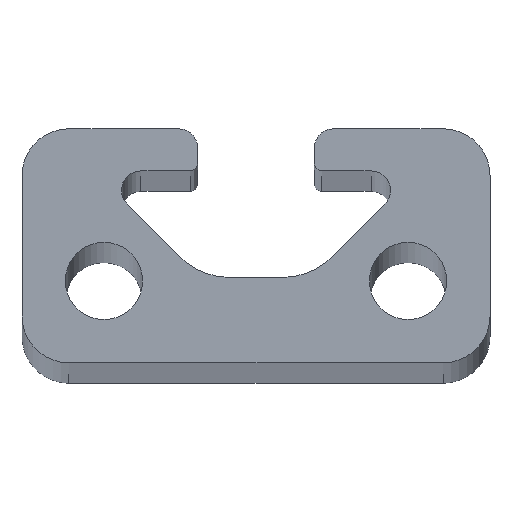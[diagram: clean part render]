
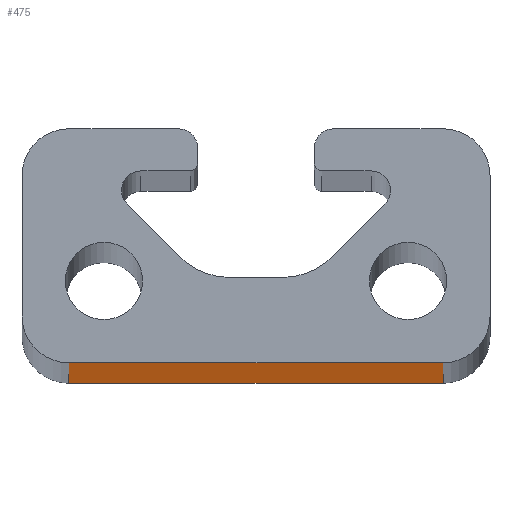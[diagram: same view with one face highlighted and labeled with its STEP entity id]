
A CAD part, top view. The second image highlights one B-rep face of the part: STEP entity #475.
In plain terms, the highlighted planar face has unit normal (0, -1, 0).
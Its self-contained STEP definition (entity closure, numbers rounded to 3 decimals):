
#84 = VERTEX_POINT ( 'NONE', #1036 ) ;
#102 = EDGE_CURVE ( 'NONE', #84, #931, #1083, .T. ) ;
#105 = DIRECTION ( 'NONE',  ( 0., 0., -1. ) ) ;
#111 = PLANE ( 'NONE',  #637 ) ;
#122 = EDGE_CURVE ( 'NONE', #757, #1028, #354, .T. ) ;
#156 = LINE ( 'NONE', #751, #257 ) ;
#217 = DIRECTION ( 'NONE',  ( -1., 0., 0. ) ) ;
#242 = EDGE_CURVE ( 'NONE', #931, #1028, #156, .T. ) ;
#257 = VECTOR ( 'NONE', #420, 1000. ) ;
#269 = ORIENTED_EDGE ( 'NONE', *, *, #102, .F. ) ;
#354 = LINE ( 'NONE', #624, #661 ) ;
#387 = ORIENTED_EDGE ( 'NONE', *, *, #122, .T. ) ;
#420 = DIRECTION ( 'NONE',  ( 1., 0., 0. ) ) ;
#434 = VECTOR ( 'NONE', #952, 1000. ) ;
#466 = CARTESIAN_POINT ( 'NONE',  ( 8., 0., 250. ) ) ;
#470 = LINE ( 'NONE', #961, #885 ) ;
#475 = ADVANCED_FACE ( 'NONE', ( #825 ), #111, .T. ) ;
#486 = CARTESIAN_POINT ( 'NONE',  ( 8., 0., -250. ) ) ;
#600 = EDGE_LOOP ( 'NONE', ( #269, #878, #387, #929 ) ) ;
#624 = CARTESIAN_POINT ( 'NONE',  ( 8., 0., -250. ) ) ;
#627 = EDGE_CURVE ( 'NONE', #757, #84, #470, .T. ) ;
#637 = AXIS2_PLACEMENT_3D ( 'NONE', #1035, #707, #105 ) ;
#661 = VECTOR ( 'NONE', #703, 1000. ) ;
#703 = DIRECTION ( 'NONE',  ( 0., 0., 1. ) ) ;
#707 = DIRECTION ( 'NONE',  ( 0., -1., 0. ) ) ;
#745 = CARTESIAN_POINT ( 'NONE',  ( -8., 0., 250. ) ) ;
#751 = CARTESIAN_POINT ( 'NONE',  ( -10., 0., 250. ) ) ;
#757 = VERTEX_POINT ( 'NONE', #486 ) ;
#825 = FACE_OUTER_BOUND ( 'NONE', #600, .T. ) ;
#861 = CARTESIAN_POINT ( 'NONE',  ( -8., 0., -250. ) ) ;
#878 = ORIENTED_EDGE ( 'NONE', *, *, #627, .F. ) ;
#885 = VECTOR ( 'NONE', #217, 1000. ) ;
#929 = ORIENTED_EDGE ( 'NONE', *, *, #242, .F. ) ;
#931 = VERTEX_POINT ( 'NONE', #745 ) ;
#952 = DIRECTION ( 'NONE',  ( 0., 0., 1. ) ) ;
#961 = CARTESIAN_POINT ( 'NONE',  ( -10., 0., -250. ) ) ;
#1028 = VERTEX_POINT ( 'NONE', #466 ) ;
#1035 = CARTESIAN_POINT ( 'NONE',  ( -10., 0., -272.361 ) ) ;
#1036 = CARTESIAN_POINT ( 'NONE',  ( -8., 0., -250. ) ) ;
#1083 = LINE ( 'NONE', #861, #434 ) ;
